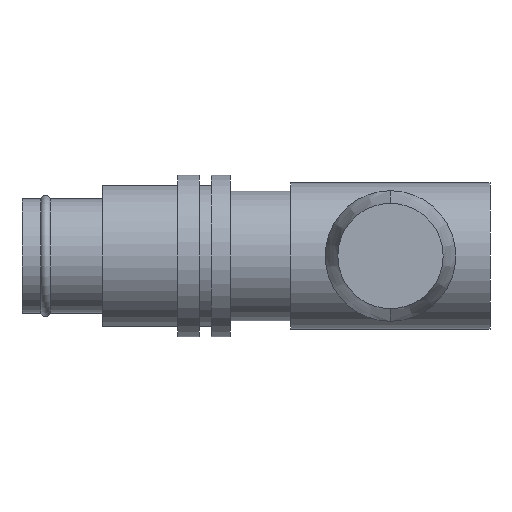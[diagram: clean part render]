
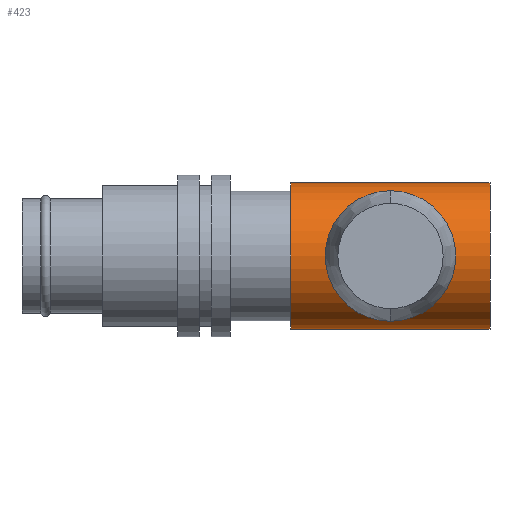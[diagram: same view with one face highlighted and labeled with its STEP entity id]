
A CAD part, front view. The second image highlights one B-rep face of the part: STEP entity #423.
In plain terms, the highlighted cylindrical face has radius 9.038 mm (diameter 18.075 mm), a partial arc.
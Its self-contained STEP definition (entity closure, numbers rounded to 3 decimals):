
#34 = VERTEX_POINT ( 'NONE', #834 ) ;
#45 = EDGE_CURVE ( 'NONE', #1097, #787, #365, .T. ) ;
#76 = LINE ( 'NONE', #265, #1005 ) ;
#155 = CARTESIAN_POINT ( 'NONE',  ( 33.211, 0., 0. ) ) ;
#168 = AXIS2_PLACEMENT_3D ( 'NONE', #155, #188, #1247 ) ;
#188 = DIRECTION ( 'NONE',  ( -1., 0., 0. ) ) ;
#222 = CIRCLE ( 'NONE', #168, 9.038 ) ;
#265 = CARTESIAN_POINT ( 'NONE',  ( 33.211, 0., -9.038 ) ) ;
#284 = CYLINDRICAL_SURFACE ( 'NONE', #957, 9.038 ) ;
#290 = ORIENTED_EDGE ( 'NONE', *, *, #1092, .F. ) ;
#330 = AXIS2_PLACEMENT_3D ( 'NONE', #602, #598, #563 ) ;
#351 = EDGE_CURVE ( 'NONE', #1097, #1205, #76, .T. ) ;
#365 = CIRCLE ( 'NONE', #330, 9.038 ) ;
#423 = ADVANCED_FACE ( 'NONE', ( #901 ), #284, .T. ) ;
#473 = EDGE_CURVE ( 'NONE', #787, #34, #801, .T. ) ;
#497 = CARTESIAN_POINT ( 'NONE',  ( 33.211, 0., 9.038 ) ) ;
#563 = DIRECTION ( 'NONE',  ( 0., 0., 1. ) ) ;
#598 = DIRECTION ( 'NONE',  ( -1., 0., 0. ) ) ;
#602 = CARTESIAN_POINT ( 'NONE',  ( 57.789, 0., 0. ) ) ;
#607 = DIRECTION ( 'NONE',  ( -1., 0., 0. ) ) ;
#701 = ORIENTED_EDGE ( 'NONE', *, *, #351, .F. ) ;
#787 = VERTEX_POINT ( 'NONE', #1031 ) ;
#801 = LINE ( 'NONE', #497, #1322 ) ;
#806 = DIRECTION ( 'NONE',  ( -1., 0., 0. ) ) ;
#810 = DIRECTION ( 'NONE',  ( 0., 0., 1. ) ) ;
#834 = CARTESIAN_POINT ( 'NONE',  ( 33.211, 0., 9.038 ) ) ;
#901 = FACE_OUTER_BOUND ( 'NONE', #1309, .T. ) ;
#930 = ORIENTED_EDGE ( 'NONE', *, *, #473, .T. ) ;
#957 = AXIS2_PLACEMENT_3D ( 'NONE', #1330, #1337, #810 ) ;
#1005 = VECTOR ( 'NONE', #806, 1000. ) ;
#1031 = CARTESIAN_POINT ( 'NONE',  ( 57.789, 0., 9.038 ) ) ;
#1092 = EDGE_CURVE ( 'NONE', #1205, #34, #222, .T. ) ;
#1097 = VERTEX_POINT ( 'NONE', #1187 ) ;
#1187 = CARTESIAN_POINT ( 'NONE',  ( 57.789, 0., -9.038 ) ) ;
#1205 = VERTEX_POINT ( 'NONE', #1317 ) ;
#1247 = DIRECTION ( 'NONE',  ( 0., 0., 1. ) ) ;
#1285 = ORIENTED_EDGE ( 'NONE', *, *, #45, .T. ) ;
#1309 = EDGE_LOOP ( 'NONE', ( #701, #1285, #930, #290 ) ) ;
#1317 = CARTESIAN_POINT ( 'NONE',  ( 33.211, 0., -9.038 ) ) ;
#1322 = VECTOR ( 'NONE', #607, 1000. ) ;
#1330 = CARTESIAN_POINT ( 'NONE',  ( 33.211, 0., 0. ) ) ;
#1337 = DIRECTION ( 'NONE',  ( -1., 0., 0. ) ) ;
